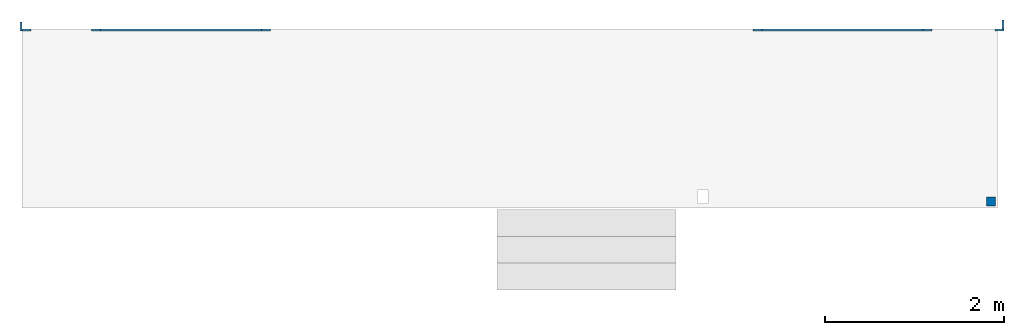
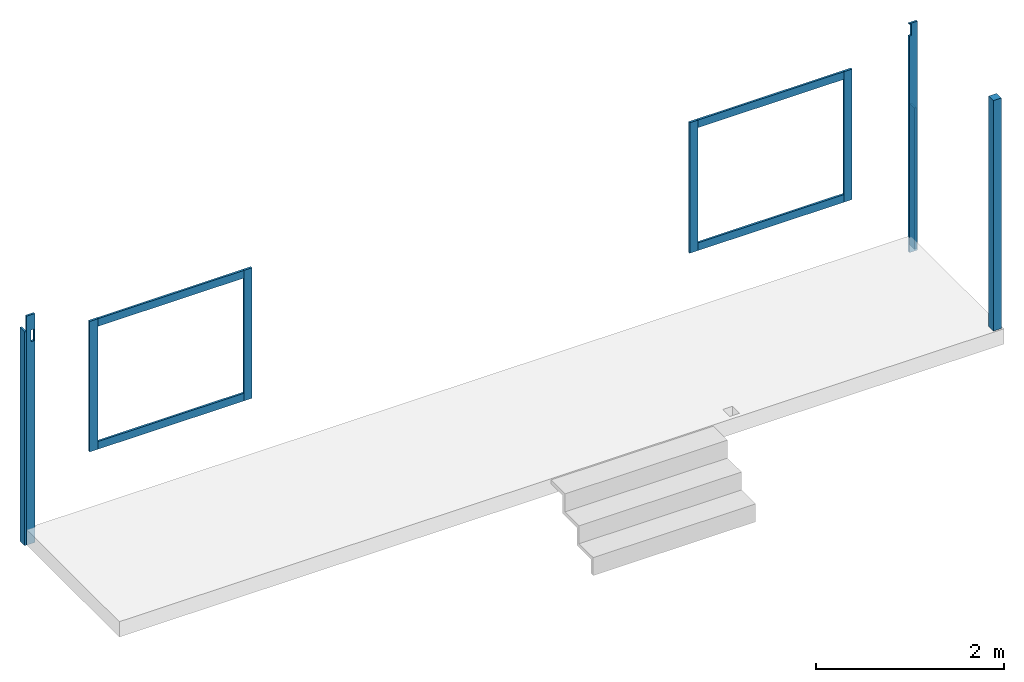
# One storey, part 1 of 2: 12 beams, 1 column.
"""IFC4 building model written with IfcOpenShell, lengths in millimetres."""

import ifcopenshell
import ifcopenshell.guid

model = None  # the IFC model being written
_history = None  # IfcOwnerHistory: only IFC2X3 demands one
_inside = {}  # id of a spatial element -> (the spatial element, [elements in it])
_under = {}  # id of a project, library or spatial element -> (it, [spatial elements below it])
_declared = {}  # id of a project -> (the project, [libraries it declares])
_typed = {}  # id of a type object -> (the type object, [elements of that type])
_made_of = {}  # id of a material, layer set ... -> (it, [elements and type objects made of it])


def new_model(schema):
    """Start an empty IFC model of exactly this schema.

    Asked for "IFC4X3", IfcOpenShell would pick the latest addendum, in which some entities
    have other attributes; the version numbers below select the first issue.
    IFC2X3 requires an IfcOwnerHistory on every rooted entity: one is made here for all.
    """
    global model, _history
    if schema == "IFC4X3":
        model = ifcopenshell.file(schema_version=(4, 3, 0, 0))
    else:
        model = ifcopenshell.file(schema=schema)
    _inside.clear()
    _under.clear()
    _declared.clear()
    _typed.clear()
    _made_of.clear()
    _history = None
    if model.schema == "IFC2X3":
        org = make("IfcOrganization", Name="unknown")
        user = make(
            "IfcPersonAndOrganization",
            ThePerson=make("IfcPerson", FamilyName="unknown"),
            TheOrganization=org,
        )
        app = make(
            "IfcApplication",
            ApplicationDeveloper=org,
            Version="unknown",
            ApplicationFullName="unknown",
            ApplicationIdentifier="unknown",
        )
        _history = make(
            "IfcOwnerHistory",
            OwningUser=user,
            OwningApplication=app,
            ChangeAction="ADDED",
            CreationDate=0,
        )
    return model


def make(cls, **values):
    """One entity of the class cls with the attributes given. An attribute that is None is left unset."""
    return model.create_entity(
        cls, **{name: value for name, value in values.items() if value is not None}
    )


def rooted(cls, **values):
    """An entity with a GlobalId (a new one), such as an element, a storey or a relation."""
    return make(cls, GlobalId=ifcopenshell.guid.new(), OwnerHistory=_history, **values)


def si_unit(unit_type, name, prefix=None):
    """IfcSIUnit, for example si_unit("LENGTHUNIT", "METRE", prefix="MILLI")."""
    return make("IfcSIUnit", UnitType=unit_type, Prefix=prefix, Name=name)


def derived_unit(unit_type, elements):
    """IfcDerivedUnit: a product of units, each with its exponent."""
    return make(
        "IfcDerivedUnit",
        Elements=[
            make("IfcDerivedUnitElement", Unit=unit, Exponent=power)
            for unit, power in elements
        ],
        UnitType=unit_type,
    )


def assignment(units):
    """IfcUnitAssignment: the units of a project."""
    return None if units is None else make("IfcUnitAssignment", Units=units)


def point(xyz):
    """IfcCartesianPoint."""
    return None if xyz is None else make("IfcCartesianPoint", Coordinates=xyz)


def direction(xyz):
    """IfcDirection."""
    return None if xyz is None else make("IfcDirection", DirectionRatios=xyz)


def frame(location, z_axis=None, x_axis=None):
    """IfcAxis2Placement3D, a coordinate frame: its origin and axes. An axis left out is left unset."""
    return make(
        "IfcAxis2Placement3D",
        Location=point(location),
        Axis=direction(z_axis),
        RefDirection=direction(x_axis),
    )


def origin_with_axes():
    """The frame at (0, 0, 0) with the z axis (0, 0, 1) and the x axis (1, 0, 0) written out."""
    return frame((0.0, 0.0, 0.0), z_axis=(0.0, 0.0, 1.0), x_axis=(1.0, 0.0, 0.0))


def place(relative_to, where):
    """IfcLocalPlacement: puts the frame where relative to a parent placement (None: the world)."""
    return make(
        "IfcLocalPlacement", PlacementRelTo=relative_to, RelativePlacement=where
    )


def context(
    kind, dimensions, precision=None, world=None, true_north=None, identifier=None
):
    """IfcGeometricRepresentationContext, for example the 3D "Model" context."""
    return make(
        "IfcGeometricRepresentationContext",
        ContextIdentifier=identifier,
        ContextType=kind,
        CoordinateSpaceDimension=dimensions,
        Precision=precision,
        WorldCoordinateSystem=world,
        TrueNorth=true_north,
    )


def subcontext(parent, identifier, kind, view, scale=None):
    """IfcGeometricRepresentationSubContext, for example "Body" below "Model"."""
    return make(
        "IfcGeometricRepresentationSubContext",
        ContextIdentifier=identifier,
        ContextType=kind,
        ParentContext=parent,
        TargetScale=scale,
        TargetView=view,
    )


def project(units=None, contexts=None):
    """IfcProject with its units and contexts."""
    return rooted(
        "IfcProject",
        Name="project",
        RepresentationContexts=contexts,
        UnitsInContext=assignment(units),
    )


def spatial(cls, under=None, at=None, **own):
    """A site, building, storey or space (cls), placed at a placement, below another one or the project."""
    s = rooted(cls, ObjectPlacement=at, **own)
    if under is not None:
        _under.setdefault(under.id(), (under, []))[1].append(s)
    return s


def point_list(points):
    """IfcCartesianPointList2D or 3D."""
    cls = (
        "IfcCartesianPointList2D" if len(points[0]) == 2 else "IfcCartesianPointList3D"
    )
    return make(cls, CoordList=points)


def line(*indices):
    """IfcLineIndex: a straight run through numbered points of an indexed curve."""
    return model.create_entity("IfcLineIndex", indices)


def indexed_curve(points, segments=None, self_intersect=None):
    """IfcIndexedPolyCurve: lines and arcs through numbered points (the first is 1)."""
    return make(
        "IfcIndexedPolyCurve",
        Points=point_list(points),
        Segments=segments,
        SelfIntersect=self_intersect,
    )


def outline(outer, holes=None, kind="AREA"):
    """IfcArbitraryClosedProfileDef: a profile drawn as a closed curve; with holes, ...WithVoids."""
    if holes is None:
        return make("IfcArbitraryClosedProfileDef", ProfileType=kind, OuterCurve=outer)
    return make(
        "IfcArbitraryProfileDefWithVoids",
        ProfileType=kind,
        OuterCurve=outer,
        InnerCurves=holes,
    )


def extrude(swept, where, along, depth):
    """IfcExtrudedAreaSolid: the profile swept, set in the frame where, extruded along a direction by depth."""
    return make(
        "IfcExtrudedAreaSolid",
        SweptArea=swept,
        Position=where,
        ExtrudedDirection=direction(along),
        Depth=depth,
    )


def polygons(points, faces, closed=None, point_numbers=None):
    """IfcPolygonalFaceSet: a face is its outer loop, then its inner loops; points numbered from 1."""
    made = []
    for loops in faces:
        if len(loops) == 1:
            made.append(make("IfcIndexedPolygonalFace", CoordIndex=loops[0]))
        else:
            made.append(
                make(
                    "IfcIndexedPolygonalFaceWithVoids",
                    CoordIndex=loops[0],
                    InnerCoordIndices=loops[1:],
                )
            )
    return make(
        "IfcPolygonalFaceSet",
        Coordinates=point_list(points),
        Closed=closed,
        Faces=made,
        PnIndex=point_numbers,
    )


def shape(context_of_items, identifier, shape_type, items):
    """IfcShapeRepresentation: the items that make up one representation, for example the "Body"."""
    return make(
        "IfcShapeRepresentation",
        ContextOfItems=context_of_items,
        RepresentationIdentifier=identifier,
        RepresentationType=shape_type,
        Items=items,
    )


def source(mapping_origin, context_of_items, identifier, shape_type, items):
    """IfcRepresentationMap: a shape defined once, which mapped items show again and again."""
    return make(
        "IfcRepresentationMap",
        MappingOrigin=mapping_origin,
        MappedRepresentation=shape(context_of_items, identifier, shape_type, items),
    )


def transform(
    local_origin,
    x_axis=None,
    y_axis=None,
    z_axis=None,
    scale=None,
    scale2=None,
    scale3=None,
    uniform=True,
):
    """IfcCartesianTransformationOperator3D, or its non-uniform kind. x_axis, y_axis, z_axis: its Axis1, 2, 3."""
    if uniform:
        return make(
            "IfcCartesianTransformationOperator3D",
            Axis1=direction(x_axis),
            Axis2=direction(y_axis),
            LocalOrigin=point(local_origin),
            Scale=scale,
            Axis3=direction(z_axis),
        )
    return make(
        "IfcCartesianTransformationOperator3DnonUniform",
        Axis1=direction(x_axis),
        Axis2=direction(y_axis),
        LocalOrigin=point(local_origin),
        Scale=scale,
        Axis3=direction(z_axis),
        Scale2=scale2,
        Scale3=scale3,
    )


def mapped(mapping_source, mapping_target):
    """IfcMappedItem: shows the shape of a source again, moved by a transform."""
    return make(
        "IfcMappedItem", MappingSource=mapping_source, MappingTarget=mapping_target
    )


def material(Name=None, Category=None):
    """IfcMaterial."""
    return make("IfcMaterial", Name=Name, Category=Category)


def made_of(thing, what):
    """Note that an element or type object is made of a material, layer set ...; save() writes the relation."""
    if what is not None:
        _made_of.setdefault(what.id(), (what, []))[1].append(thing)
    return thing


def type_object(cls, material=None, **own):
    """A type object (cls), such as IfcWallType, which elements share."""
    return made_of(rooted(cls, **own), material)


def element(
    cls,
    number,
    at=None,
    inside=None,
    cuts=None,
    type_object=None,
    material=None,
    context=None,
    identifier="Body",
    shape_type=None,
    held_by="IfcProductDefinitionShape",
    body=None,
    shapes=None,
    **own,
):
    """One element of the class cls, such as IfcWall. Its Tag is "e" and its number.

    at: its placement. inside: the storey or other place that contains it. cuts: it is an
    opening in that element (IfcRelVoidsElement). A single representation is given by context,
    identifier, shape_type and body (its items); several are given by shapes. held_by: the class
    of the entity that holds the representations. save() writes the other relations.
    """
    e = rooted(cls, Tag="e%d" % number, ObjectPlacement=at, **own)
    if body is not None:
        shapes = [shape(context, identifier, shape_type, body)]
    if shapes is not None:
        e.Representation = make(held_by, Representations=shapes)
    if inside is not None:
        _inside.setdefault(inside.id(), (inside, []))[1].append(e)
    if cuts is not None:
        rooted(
            "IfcRelVoidsElement", RelatingBuildingElement=cuts, RelatedOpeningElement=e
        )
    if type_object is not None:
        _typed.setdefault(type_object.id(), (type_object, []))[1].append(e)
    return made_of(e, material)


def aggregate(whole, parts):
    """IfcRelAggregates: a whole, such as a stair, and the parts it consists of."""
    return rooted("IfcRelAggregates", RelatingObject=whole, RelatedObjects=parts)


def save(model, path):
    """Write the relations noted so far, then the file.

    IfcRelAggregates (storeys below a building ...), IfcRelContainedInSpatialStructure (elements
    in a storey), IfcRelDefinesByType, IfcRelAssociatesMaterial and IfcRelDeclares: one each for
    every whole, place, type object, material and project.
    """
    for whole, parts in _under.values():
        aggregate(whole, parts)
    for where, things in _inside.values():
        rooted(
            "IfcRelContainedInSpatialStructure",
            RelatedElements=things,
            RelatingStructure=where,
        )
    for kind, things in _typed.values():
        rooted("IfcRelDefinesByType", RelatedObjects=things, RelatingType=kind)
    for what, things in _made_of.values():
        rooted("IfcRelAssociatesMaterial", RelatedObjects=things, RelatingMaterial=what)
    for by, libraries in _declared.values():
        rooted("IfcRelDeclares", RelatingContext=by, RelatedDefinitions=libraries)
    model.write(path)


model = new_model("IFC4")

# Units and contexts
model_context = context("Model", 3, precision=1e-06, world=origin_with_axes())
body_context = subcontext(model_context, "Body", "Model", "MODEL_VIEW")
ifc_project = project(units=[si_unit("LENGTHUNIT", "METRE", prefix="MILLI"), si_unit("AREAUNIT", "SQUARE_METRE"), si_unit("VOLUMEUNIT", "CUBIC_METRE"), si_unit("MASSUNIT", "GRAM", prefix="KILO"), si_unit("ELECTRICVOLTAGEUNIT", "VOLT", prefix="KILO"), si_unit("THERMODYNAMICTEMPERATUREUNIT", "DEGREE_CELSIUS"), si_unit("PRESSUREUNIT", "PASCAL", prefix="MEGA"), si_unit("PLANEANGLEUNIT", "RADIAN"), derived_unit("THERMALCONDUCTANCEUNIT", [(si_unit("POWERUNIT", "WATT"), 1), (si_unit("LENGTHUNIT", "METRE"), -1), (si_unit("THERMODYNAMICTEMPERATUREUNIT", "KELVIN"), -1)]), derived_unit("MASSDENSITYUNIT", [(si_unit("MASSUNIT", "GRAM", prefix="KILO"), 1), (si_unit("VOLUMEUNIT", "CUBIC_METRE"), -1)])], contexts=[model_context])

# Site, building, storey
site_placement = place(None, origin_with_axes())
site = spatial("IfcSite", under=ifc_project, at=site_placement, CompositionType="ELEMENT")
building_placement = place(site_placement, origin_with_axes())
building = spatial("IfcBuilding", under=site, at=building_placement, CompositionType="ELEMENT")
storey_placement = place(building_placement, origin_with_axes())
storey = spatial("IfcBuildingStorey", under=building, at=storey_placement, Name="Фасады", CompositionType="ELEMENT", Elevation=0.0)

# Column
column_type = type_object("IfcColumnType", Name="100-100", PredefinedType="COLUMN")
shared_shape_1 = source(origin_with_axes(), body_context, "Body", "SweptSolid", [
    extrude(outline(indexed_curve([(-50.0, -50.0), (50.0, -50.0), (50.0, 50.0), (-50.0, 50.0)], segments=[line(1, 2), line(2, 3), line(3, 4), line(4, 1)])), origin_with_axes(), (0.0, 0.0, 1.0), 3000.0),
])
column_placement = place(storey_placement, frame((10774.999999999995, -1979.9999999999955, -1.0), z_axis=(0.0, 0.0, 1.0), x_axis=(1.0, 0.0, 0.0)))
element("IfcColumn", 1, at=column_placement, inside=storey, type_object=column_type, Name="Колонна - 100-100", context=body_context, shape_type="MappedRepresentation", body=[
    mapped(shared_shape_1, transform((0.0, 0.0, 0.0), x_axis=(1.0, 0.0, 0.0), y_axis=(0.0, 1.0, 0.0), z_axis=(0.0, 0.0, 1.0), scale=1.0)),
])

# Beams
ifc_material = material(Name="Древесина белая крашенная")
beam_type = type_object("IfcBeamType", Name="Доска 25х100", PredefinedType="BEAM")
shared_shape_2 = source(origin_with_axes(), body_context, "Body", "Tessellation", [
    polygons([(0.0, 0.0, 0.0), (-100.0, 0.0, 0.0), (-100.0, 0.0, -2980.771724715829), (0.0, 0.0, -2980.771724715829), (-89.99999999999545, 0.0, -2630.0000000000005), (-49.99999999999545, 0.0, -2630.0000000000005), (-49.99999999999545, 0.0, -2780.0000000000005), (-89.99999999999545, 0.0, -2780.0000000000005), (-100.0, 25.0, 0.0), (0.0, 25.0, 0.0), (0.0, 25.0, -2980.771724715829), (-100.0, 25.0, -2980.771724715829), (-49.99999999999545, 25.0, -2630.0000000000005), (-89.99999999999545, 25.0, -2630.0000000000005), (-89.99999999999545, 25.0, -2780.0000000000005), (-49.99999999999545, 25.0, -2780.0000000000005)], [[[1, 2, 3, 4], [5, 6, 7, 8]], [[9, 10, 11, 12], [13, 14, 15, 16]], [[13, 16, 7, 6]], [[16, 15, 8, 7]], [[15, 14, 5, 8]], [[14, 13, 6, 5]], [[2, 1, 10, 9]], [[2, 9, 12, 3]], [[3, 12, 11, 4]], [[10, 1, 4, 11]]], closed=True),
])
beam_1_placement = place(storey_placement, frame((-49.99999999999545, -75.00000000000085, -200.0), z_axis=(0.0, 0.0, -1.0), x_axis=(-1.0, 0.0, 0.0)))
element("IfcBeam", 2, at=beam_1_placement, inside=storey, type_object=beam_type, material=ifc_material, Name="Балка - Доска 25х100", context=body_context, shape_type="MappedRepresentation", body=[
    mapped(shared_shape_2, transform((0.0, 0.0, 0.0), x_axis=(1.0, 0.0, 0.0), y_axis=(0.0, 1.0, 0.0), z_axis=(0.0, 0.0, 1.0), scale=1.0)),
])
shared_shape_3 = source(origin_with_axes(), body_context, "Body", "SweptSolid", [
    extrude(outline(indexed_curve([(-100.0, -4e-15), (0.0, -4e-15), (0.0, 24.999999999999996), (-100.0, 24.999999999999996)], segments=[line(1, 2), line(2, 3), line(3, 4), line(4, 1)])), origin_with_axes(), (0.0, 0.0, -1.0), 1841.448051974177),
])
beam_2_placement = place(storey_placement, frame((10894.999999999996, 50.00000000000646, -200.0), z_axis=(0.0, 0.0, -1.0), x_axis=(0.0, 1.0, 0.0)))
element("IfcBeam", 3, at=beam_2_placement, inside=storey, type_object=beam_type, material=ifc_material, Name="Балка - Доска 25х100", context=body_context, shape_type="MappedRepresentation", body=[
    mapped(shared_shape_3, transform((0.0, 0.0, 0.0), x_axis=(1.0, 0.0, 0.0), y_axis=(0.0, 1.0, 0.0), z_axis=(0.0, 0.0, 1.0), scale=1.0)),
])
shared_shape_4 = source(origin_with_axes(), body_context, "Body", "SweptSolid", [
    extrude(outline(indexed_curve([(-100.0, -4e-15), (0.0, -4e-15), (0.0, 24.999999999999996), (-100.0, 24.999999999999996)], segments=[line(1, 2), line(2, 3), line(3, 4), line(4, 1)])), origin_with_axes(), (0.0, 0.0, -1.0), 2783.7637795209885),
])
beam_3_placement = place(storey_placement, frame((-74.99999999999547, 24.99999999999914, -200.0), z_axis=(0.0, 0.0, -1.0), x_axis=(0.0, 1.0, 0.0)))
element("IfcBeam", 4, at=beam_3_placement, inside=storey, type_object=beam_type, material=ifc_material, Name="Балка - Доска 25х100", context=body_context, shape_type="MappedRepresentation", body=[
    mapped(shared_shape_4, transform((0.0, 0.0, 0.0), x_axis=(1.0, 0.0, 0.0), y_axis=(0.0, 1.0, 0.0), z_axis=(0.0, 0.0, 1.0), scale=1.0)),
])
shared_shape_5 = source(origin_with_axes(), body_context, "Body", "Tessellation", [
    polygons([(-25.000000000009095, 0.0, -2820.0), (0.0, 0.0, -2820.0), (0.0, 0.0, 0.0), (-100.0, 0.0, 0.0), (-100.0, 0.0, -2980.771724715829), (0.0, 0.0, -2980.771724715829), (0.0, 0.0, -2970.0), (-25.000000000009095, 0.0, -2970.0), (0.0, 25.0, -2819.9999999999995), (0.0, 25.0, 0.0), (0.0, 25.0, -2970.0), (0.0, 25.0, -2980.771724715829), (-25.000000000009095, 25.0, -2820.0), (-25.000000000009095, 25.0, -2970.0), (-100.0, 25.0, -2980.771724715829), (-100.0, 25.0, 0.0)], [[[1, 2, 3, 4, 5, 6, 7, 8]], [[2, 9, 10, 3]], [[11, 7, 6, 12]], [[9, 13, 14, 11, 12, 15, 16, 10]], [[14, 13, 1, 8]], [[11, 14, 8, 7]], [[13, 9, 2, 1]], [[4, 3, 10, 16]], [[4, 16, 15, 5]], [[5, 15, 12, 6]]], closed=True),
])
beam_4_placement = place(storey_placement, frame((10819.999999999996, -75.00000000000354, -200.0), z_axis=(0.0, 0.0, -1.0), x_axis=(-1.0, 0.0, 0.0)))
element("IfcBeam", 5, at=beam_4_placement, inside=storey, type_object=beam_type, material=ifc_material, Name="Балка - Доска 25х100", context=body_context, shape_type="MappedRepresentation", body=[
    mapped(shared_shape_5, transform((0.0, 0.0, 0.0), x_axis=(1.0, 0.0, 0.0), y_axis=(0.0, 1.0, 0.0), z_axis=(0.0, 0.0, 1.0), scale=1.0)),
])
shared_shape_6 = source(origin_with_axes(), body_context, "Body", "SweptSolid", [
    extrude(outline(indexed_curve([(-100.0, 0.0), (0.0, 0.0), (0.0, 25.0), (-100.0, 25.0)], segments=[line(1, 2), line(2, 3), line(3, 4), line(4, 1)])), origin_with_axes(), (0.0, 0.0, -1.0), 1699.9999999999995),
])
for number, where, z_axis, x_axis in (
    (6, (725.4906364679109, -75.00000000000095, 740.0000000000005), (0.0, 1e-15, -1.0), (-1.0, 0.0, 0.0)),
    (7, (2625.490636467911, -75.00000000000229, 740.0), (0.0, 0.0, -1.0), (-1.0, 0.0, 0.0)),
    (8, (8115.5855817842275, -74.9999999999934, 740.0000000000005), (0.0, 1e-15, -1.0), (-1.0, 0.0, 0.0)),
    (9, (10015.585581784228, -74.99999999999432, 740.0), (0.0, 0.0, -1.0), (-1.0, 0.0, 0.0)),
):
    element("IfcBeam", number, at=place(storey_placement, frame(where, z_axis=z_axis, x_axis=x_axis)), inside=storey, type_object=beam_type, material=ifc_material, Name="Балка - Доска 25х100", context=body_context, shape_type="MappedRepresentation", body=[
        mapped(shared_shape_6, transform((0.0, 0.0, 0.0), x_axis=(1.0, 0.0, 0.0), y_axis=(0.0, 1.0, 0.0), z_axis=(0.0, 0.0, 1.0), scale=1.0)),
    ])
shared_shape_7 = source(origin_with_axes(), body_context, "Body", "SweptSolid", [
    extrude(outline(indexed_curve([(0.0, -24.999999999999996), (100.0, -24.999999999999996), (100.0, 4e-15), (0.0, 4e-15)], segments=[line(1, 2), line(2, 3), line(3, 4), line(4, 1)])), origin_with_axes(), (0.0, 0.0, -1.0), 1800.0),
])
for number, where, z_axis, x_axis in (
    (10, (825.4906364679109, -50.00000000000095, 2340.0), (-1.0, 1e-15, 0.0), (0.0, 0.0, 1.0)),
    (11, (825.4906364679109, -50.00000000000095, 740.0000000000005), (-1.0, 1e-15, 0.0), (0.0, 0.0, 1.0)),
    (12, (8215.585581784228, -49.99999999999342, 2340.0), (-1.0, 1e-15, 0.0), (0.0, 0.0, 1.0)),
    (13, (8215.585581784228, -49.99999999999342, 740.0000000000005), (-1.0, 1e-15, 0.0), (0.0, 0.0, 1.0)),
):
    element("IfcBeam", number, at=place(storey_placement, frame(where, z_axis=z_axis, x_axis=x_axis)), inside=storey, type_object=beam_type, material=ifc_material, Name="Балка - Доска 25х100", context=body_context, shape_type="MappedRepresentation", body=[
        mapped(shared_shape_7, transform((0.0, 0.0, 0.0), x_axis=(1.0, 0.0, 0.0), y_axis=(0.0, 1.0, 0.0), z_axis=(0.0, 0.0, 1.0), scale=1.0)),
    ])

save(model, "model.ifc")
